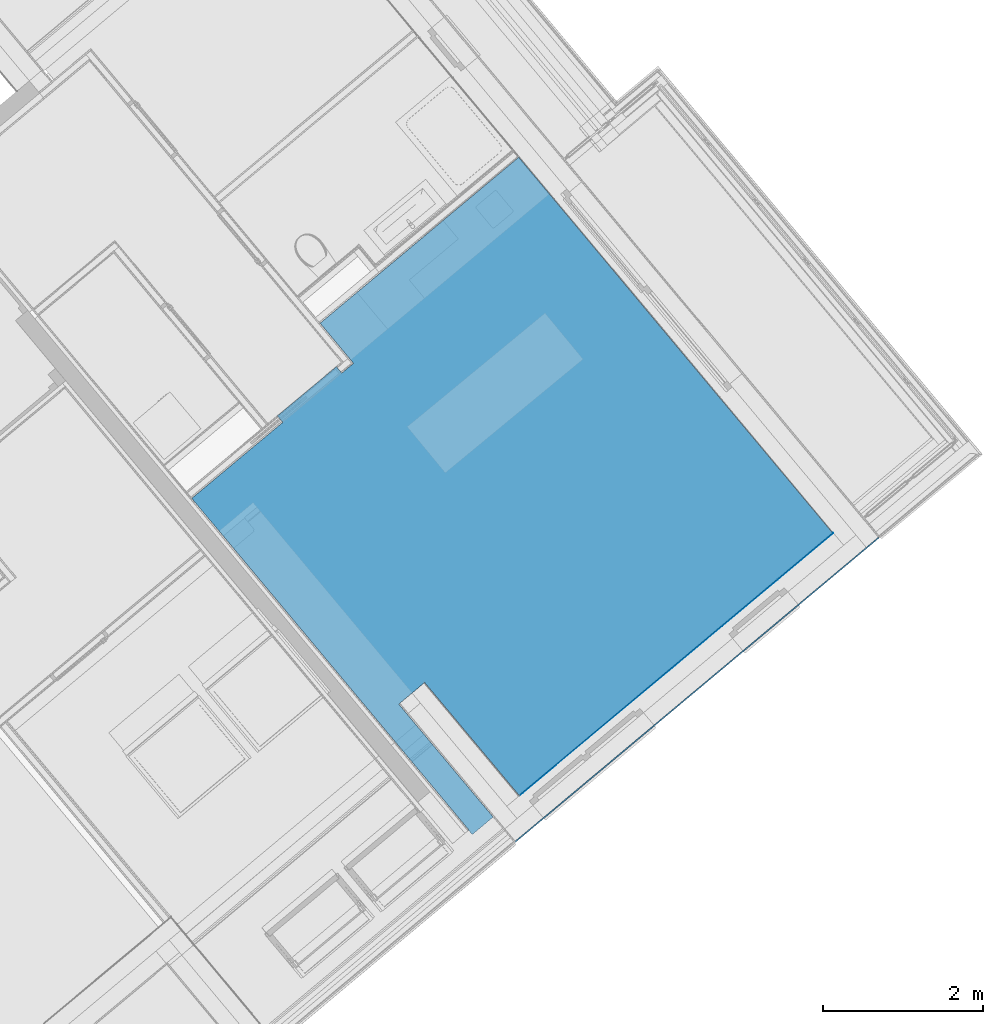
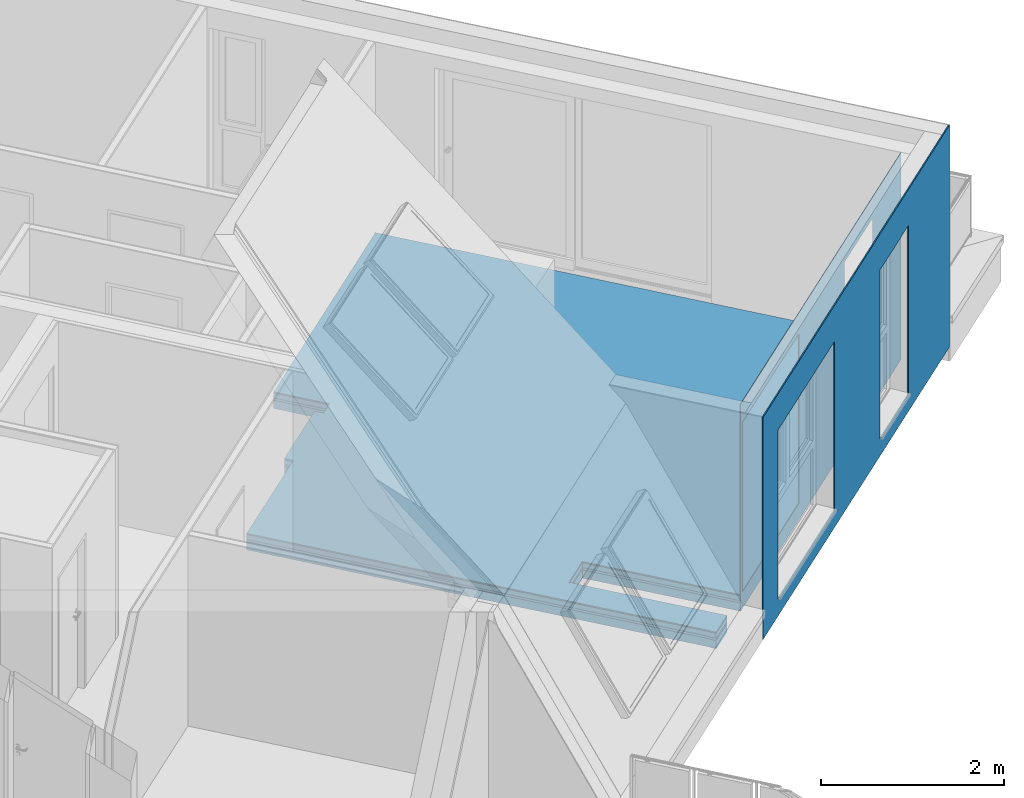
# One storey, part 31 of 61: 6 building element parts, 2 openings, 2 elements without a shape of their own.
"""IFC4 building model written with IfcOpenShell, lengths in metres."""

from ifc_helpers import new_model, entity, si_unit, converted_unit, derived_unit, direction, frame, origin_with_axes, place, context, subcontext, project, spatial, polygons, material, type_object, element, aggregate, save


model = new_model("IFC4")

# Units and contexts
model_context = context("Model", 3, precision=1e-05, world=origin_with_axes(), true_north=direction((0.0, 1.0)))
body_context = subcontext(model_context, "Body", "Model", "MODEL_VIEW")
ifc_project = project(units=[si_unit("LENGTHUNIT", "METRE"), si_unit("AREAUNIT", "SQUARE_METRE"), si_unit("VOLUMEUNIT", "CUBIC_METRE"), converted_unit("PLANEANGLEUNIT", "DEGREE", entity("IfcPlaneAngleMeasure", 0.0174532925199), si_unit("PLANEANGLEUNIT", "RADIAN"), dimensions=[0, 0, 0, 0, 0, 0, 0]), converted_unit("TIMEUNIT", "Year", entity("IfcTimeMeasure", 31556926.0), si_unit("TIMEUNIT", "SECOND"), dimensions=[0, 0, 1, 0, 0, 0, 0]), si_unit("MASSUNIT", "GRAM", prefix="KILO"), si_unit("THERMODYNAMICTEMPERATUREUNIT", "DEGREE_CELSIUS"), si_unit("LUMINOUSINTENSITYUNIT", "LUMEN"), si_unit("ENERGYUNIT", "JOULE", prefix="MEGA"), derived_unit("THERMALCONDUCTANCEUNIT", [(si_unit("POWERUNIT", "WATT"), 1), (si_unit("LENGTHUNIT", "METRE"), -1), (si_unit("THERMODYNAMICTEMPERATUREUNIT", "KELVIN"), -1)]), derived_unit("SPECIFICHEATCAPACITYUNIT", [(si_unit("ENERGYUNIT", "JOULE"), 1), (si_unit("MASSUNIT", "GRAM", prefix="KILO"), -1), (si_unit("THERMODYNAMICTEMPERATUREUNIT", "KELVIN"), -1)]), derived_unit("MASSDENSITYUNIT", [(si_unit("MASSUNIT", "GRAM", prefix="KILO"), 1), (si_unit("VOLUMEUNIT", "CUBIC_METRE"), -1)])], contexts=[model_context])

# Site, building, storey
site_placement = place(None, frame((-0.00153261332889, -0.00661245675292, 0.0), z_axis=(0.0, 0.0, 1.0), x_axis=(1.0, 0.0, 0.0)))
site = spatial("IfcSite", under=ifc_project, at=site_placement, Name="Gelände", CompositionType="ELEMENT")
building_placement = place(site_placement, origin_with_axes())
building = spatial("IfcBuilding", under=site, at=building_placement, Name="Gebäude", CompositionType="ELEMENT")
storey_placement = place(building_placement, frame((0.0, 0.0, 5.7), z_axis=(0.0, 0.0, 1.0), x_axis=(1.0, 0.0, 0.0)))
storey = spatial("IfcBuildingStorey", under=building, at=storey_placement, Name="DG1", CompositionType="ELEMENT", Elevation=5.7)

# Wall, openings, building element parts
wall_type = type_object("IfcWallType", Name="AW EG 420", PredefinedType="NOTDEFINED")
wall_placement = place(storey_placement, frame((13.3977586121, 20.2788070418, 0.0), z_axis=(0.0, 0.0, 1.0), x_axis=(-0.766948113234, -0.641709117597, 0.0)))
wall = element("IfcWall", 1, at=wall_placement, inside=storey, type_object=wall_type, Name="Wand-002", PredefinedType="NOTDEFINED")
opening_1_placement = place(wall_placement, frame((1.77299925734, 0.0, 0.22), z_axis=(0.0, 0.0, 1.0), x_axis=(1.0, 0.0, 0.0)))
element("IfcOpeningElement", 2, at=opening_1_placement, cuts=wall, Name="Fenster-001", context=body_context, identifier="Reference", shape_type="Tessellation", body=[
    polygons([(-0.45, -0.215, 0.0), (-0.45, -0.215, 2.26), (-0.45, 2.71896276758, 2.26), (-0.45, 2.71896276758, 0.0), (-0.45, -3.13896276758, 0.0), (-0.45, -3.13896276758, 2.26), (0.45, -0.215, 2.26), (0.45, 2.71896276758, 2.26), (0.45, -3.13896276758, 2.26), (0.45, 2.71896276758, 0.0), (0.45, -0.215, 0.0), (0.45, -3.13896276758, 0.0)], [[[1, 2, 3, 4]], [[2, 1, 5, 6]], [[7, 8, 3, 2, 6, 9]], [[8, 10, 4, 3]], [[1, 4, 10, 11, 12, 5]], [[6, 5, 12, 9]], [[7, 11, 10, 8]], [[11, 7, 9, 12]]], closed=True),
])
opening_2_placement = place(wall_placement, frame((4.56977629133, 0.0, 0.22), z_axis=(0.0, 0.0, 1.0), x_axis=(1.0, 0.0, 0.0)))
element("IfcOpeningElement", 3, at=opening_2_placement, cuts=wall, Name="Fenster-001", context=body_context, identifier="Reference", shape_type="Tessellation", body=[
    polygons([(-0.9, -0.215, 0.0), (-0.9, -0.215, 2.26), (-0.9, 2.71896276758, 2.26), (-0.9, 2.71896276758, 0.0), (-0.9, -3.13896276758, 0.0), (-0.9, -3.13896276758, 2.26), (0.9, -0.215, 2.26), (0.9, 2.71896276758, 2.26), (0.9, -3.13896276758, 2.26), (0.9, 2.71896276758, 0.0), (0.9, -0.215, 0.0), (0.9, -3.13896276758, 0.0)], [[[1, 2, 3, 4]], [[2, 1, 5, 6]], [[7, 8, 3, 2, 6, 9]], [[8, 10, 4, 3]], [[1, 4, 10, 11, 12, 5]], [[6, 5, 12, 9]], [[7, 11, 10, 8]], [[11, 7, 9, 12]]], closed=True),
])
ifc_material_1 = material(Name="Zementputz")
building_element_part_1_placement = place(wall_placement, origin_with_axes())
building_element_part_1 = element("IfcBuildingElementPart", 4, at=building_element_part_1_placement, material=ifc_material_1, Name="Zementputz", PredefinedType="NOTDEFINED", context=body_context, shape_type="Tessellation", body=[
    polygons([(0.0149902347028, -0.015, 2.96), (0.0149902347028, -0.015, 0.0), (5.94254559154, -0.015, 0.0), (5.94254559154, -0.015, 2.96), (1.32299925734, -0.015, 0.22), (1.32299925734, -0.015, 2.48), (2.22299925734, -0.015, 2.48), (2.22299925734, -0.015, 0.22), (5.46977629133, -0.015, 0.22), (3.66977629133, -0.015, 0.22), (3.66977629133, -0.015, 2.48), (5.46977629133, -0.015, 2.48), (0.0150000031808, 0.0, 2.96), (0.0150000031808, 0.0, 0.0), (5.94254559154, 0.0, 0.0), (5.94254559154, 0.0, 2.96), (1.32299925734, 0.0, 2.48), (1.32299925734, 0.0, 0.22), (2.22299925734, 0.0, 2.48), (2.22299925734, 0.0, 0.22), (5.46977629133, 0.0, 0.22), (3.66977629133, 0.0, 0.22), (3.66977629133, 0.0, 2.48), (5.46977629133, 0.0, 2.48)], [[[1, 2, 3, 4], [5, 6, 7, 8], [9, 10, 11, 12]], [[13, 14, 2, 1]], [[2, 14, 15, 3]], [[3, 15, 16, 4]], [[13, 1, 4, 16]], [[17, 6, 5, 18]], [[19, 7, 6, 17]], [[20, 8, 7, 19]], [[18, 5, 8, 20]], [[21, 22, 10, 9]], [[22, 23, 11, 10]], [[23, 24, 12, 11]], [[24, 21, 9, 12]], [[14, 13, 16, 15], [19, 17, 18, 20], [21, 24, 23, 22]]], closed=True),
])
building_element_part_2_placement = place(wall_placement, origin_with_axes())
building_element_part_2 = element("IfcBuildingElementPart", 5, at=building_element_part_2_placement, material=ifc_material_1, Name="Zementputz", PredefinedType="NOTDEFINED", context=body_context, shape_type="Tessellation", body=[
    polygons([(0.419726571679, -0.42, 0.0), (5.52754559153, -0.42, 0.0), (5.52754559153, -0.42, 2.76), (0.419726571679, -0.42, 2.76), (1.32299925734, -0.42, 0.22), (1.32299925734, -0.42, 2.48), (2.22299925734, -0.42, 2.48), (2.22299925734, -0.42, 0.22), (5.46977629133, -0.42, 0.22), (3.66977629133, -0.42, 0.22), (3.66977629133, -0.42, 2.48), (5.46977629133, -0.42, 2.48), (0.419729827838, -0.415, 0.0), (5.52754559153, -0.415, 0.0), (5.52754559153, -0.415, 2.76), (0.419729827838, -0.415, 2.76), (1.32299925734, -0.415, 2.48), (1.32299925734, -0.415, 0.22), (2.22299925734, -0.415, 2.48), (2.22299925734, -0.415, 0.22), (5.46977629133, -0.415, 0.22), (3.66977629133, -0.415, 0.22), (3.66977629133, -0.415, 2.48), (5.46977629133, -0.415, 2.48)], [[[1, 2, 3, 4], [5, 6, 7, 8], [9, 10, 11, 12]], [[1, 13, 14, 2]], [[2, 14, 15, 3]], [[4, 3, 15, 16]], [[13, 1, 4, 16]], [[17, 6, 5, 18]], [[19, 7, 6, 17]], [[20, 8, 7, 19]], [[18, 5, 8, 20]], [[21, 22, 10, 9]], [[22, 23, 11, 10]], [[23, 24, 12, 11]], [[24, 21, 9, 12]], [[14, 13, 16, 15], [19, 17, 18, 20], [21, 24, 23, 22]]], closed=True),
])
aggregate(wall, [building_element_part_1, building_element_part_2])

# Covering, building element parts
covering_type = type_object("IfcCoveringType", Name="DE 01 Decke Wohnung/Wohnung Parkett 220", PredefinedType="NOTDEFINED")
covering_placement = place(storey_placement, frame((4.8062497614, 20.7617750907, 0.22), z_axis=(0.0, 0.0, 1.0), x_axis=(1.0, 0.0, 0.0)))
covering = element("IfcCovering", 6, at=covering_placement, inside=storey, type_object=covering_type, Name="Decke-005", PredefinedType="NOTDEFINED")
ifc_material_2 = material(Name="Parkett")
building_element_part_3_placement = place(covering_placement, origin_with_axes())
building_element_part_3 = element("IfcBuildingElementPart", 7, at=building_element_part_3_placement, material=ifc_material_2, Name="Parkett", PredefinedType="NOTDEFINED", context=body_context, shape_type="Tessellation", body=[
    polygons([(3.45977327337, -4.13642165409, 0.0), (3.45581548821, -4.13972888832, 0.0), (3.5013638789, -4.19429140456, 0.0), (3.76436689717, -3.97423553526, 0.0), (2.58610046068, -2.5660130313, 0.0), (2.90821866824, -2.29649520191, 0.0), (4.08648509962, -3.70471769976, 0.0), (8.00008249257, -0.43019226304, 0.0), (4.08241896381, 4.25826166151, 0.0), (1.60254077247, 2.18607990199, 0.0), (2.02036092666, 1.68605464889, 0.0), (1.87463459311, 1.56444150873, 0.0), (1.80735832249, 1.64505720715, 0.0), (1.07030040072, 1.02995917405, 0.0), (1.13757667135, 0.94934347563, 0.0), (0.00192385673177, 0.00160551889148, 0.0), (3.45977327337, -4.13642165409, -0.015), (3.45581548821, -4.13972888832, -0.015), (3.5013638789, -4.19429140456, -0.015), (3.76436689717, -3.97423553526, -0.015), (2.58610046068, -2.5660130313, -0.015), (2.90821866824, -2.29649520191, -0.015), (4.08648509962, -3.70471769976, -0.015), (8.00008249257, -0.43019226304, -0.015), (4.08241896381, 4.25826166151, -0.015), (1.60254077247, 2.18607990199, -0.015), (2.02036092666, 1.68605464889, -0.015), (1.87463459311, 1.56444150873, -0.015), (1.80735832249, 1.64505720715, -0.015), (1.07030040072, 1.02995917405, -0.015), (1.13757667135, 0.94934347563, -0.015), (0.00192385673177, 0.00160551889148, -0.015)], [[[1, 2, 3, 4, 5, 6, 7, 8, 9, 10, 11, 12, 13, 14, 15, 16]], [[2, 1, 17, 18]], [[2, 18, 19, 3]], [[20, 4, 3, 19]], [[5, 4, 20, 21]], [[5, 21, 22, 6]], [[23, 7, 6, 22]], [[7, 23, 24, 8]], [[24, 25, 9, 8]], [[25, 26, 10, 9]], [[26, 27, 11, 10]], [[27, 28, 12, 11]], [[28, 29, 13, 12]], [[29, 30, 14, 13]], [[30, 31, 15, 14]], [[32, 16, 15, 31]], [[1, 16, 32, 17]], [[17, 32, 31, 30, 29, 28, 27, 26, 25, 24, 23, 22, 21, 20, 19, 18]]], closed=True),
])
ifc_material_3 = material(Name="Estrich")
building_element_part_4_placement = place(covering_placement, origin_with_axes())
building_element_part_4 = element("IfcBuildingElementPart", 8, at=building_element_part_4_placement, material=ifc_material_3, Name="Estrich", PredefinedType="NOTDEFINED", context=body_context, shape_type="Tessellation", body=[
    polygons([(3.45977327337, -4.13642165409, -0.015), (3.45581548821, -4.13972888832, -0.015), (3.5013638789, -4.19429140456, -0.015), (3.76436689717, -3.97423553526, -0.015), (2.58610046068, -2.5660130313, -0.015), (2.90821866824, -2.29649520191, -0.015), (4.08648509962, -3.70471769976, -0.015), (8.00008249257, -0.43019226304, -0.015), (4.08241896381, 4.25826166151, -0.015), (1.60254077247, 2.18607990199, -0.015), (2.02036092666, 1.68605464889, -0.015), (1.87463459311, 1.56444150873, -0.015), (1.80735832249, 1.64505720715, -0.015), (1.07030040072, 1.02995917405, -0.015), (1.13757667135, 0.94934347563, -0.015), (0.00192385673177, 0.00160551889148, -0.015), (3.45977327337, -4.13642165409, -0.08), (3.45581548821, -4.13972888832, -0.08), (3.5013638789, -4.19429140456, -0.08), (3.76436689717, -3.97423553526, -0.08), (2.58610046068, -2.5660130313, -0.08), (2.90821866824, -2.29649520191, -0.08), (4.08648509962, -3.70471769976, -0.08), (8.00008249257, -0.43019226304, -0.08), (4.08241896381, 4.25826166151, -0.08), (1.60254077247, 2.18607990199, -0.08), (2.02036092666, 1.68605464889, -0.08), (1.87463459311, 1.56444150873, -0.08), (1.80735832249, 1.64505720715, -0.08), (1.07030040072, 1.02995917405, -0.08), (1.13757667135, 0.94934347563, -0.08), (0.00192385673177, 0.00160551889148, -0.08)], [[[1, 2, 3, 4, 5, 6, 7, 8, 9, 10, 11, 12, 13, 14, 15, 16]], [[2, 1, 17, 18]], [[2, 18, 19, 3]], [[20, 4, 3, 19]], [[5, 4, 20, 21]], [[5, 21, 22, 6]], [[23, 7, 6, 22]], [[7, 23, 24, 8]], [[24, 25, 9, 8]], [[25, 26, 10, 9]], [[26, 27, 11, 10]], [[27, 28, 12, 11]], [[28, 29, 13, 12]], [[29, 30, 14, 13]], [[30, 31, 15, 14]], [[32, 16, 15, 31]], [[1, 16, 32, 17]], [[17, 32, 31, 30, 29, 28, 27, 26, 25, 24, 23, 22, 21, 20, 19, 18]]], closed=True),
])
ifc_material_4 = material(Name="Trittschalldämmung")
building_element_part_5_placement = place(covering_placement, origin_with_axes())
building_element_part_5 = element("IfcBuildingElementPart", 9, at=building_element_part_5_placement, material=ifc_material_4, Name="Trittschalldämmung", PredefinedType="NOTDEFINED", context=body_context, shape_type="Tessellation", body=[
    polygons([(3.45977327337, -4.13642165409, -0.08), (3.45581548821, -4.13972888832, -0.08), (3.5013638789, -4.19429140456, -0.08), (3.76436689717, -3.97423553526, -0.08), (2.58610046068, -2.5660130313, -0.08), (2.90821866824, -2.29649520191, -0.08), (4.08648509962, -3.70471769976, -0.08), (8.00008249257, -0.43019226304, -0.08), (4.08241896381, 4.25826166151, -0.08), (1.60254077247, 2.18607990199, -0.08), (2.02036092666, 1.68605464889, -0.08), (1.87463459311, 1.56444150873, -0.08), (1.80735832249, 1.64505720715, -0.08), (1.07030040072, 1.02995917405, -0.08), (1.13757667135, 0.94934347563, -0.08), (0.00192385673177, 0.00160551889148, -0.08), (3.45977327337, -4.13642165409, -0.11), (3.45581548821, -4.13972888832, -0.11), (3.5013638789, -4.19429140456, -0.11), (3.76436689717, -3.97423553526, -0.11), (2.58610046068, -2.5660130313, -0.11), (2.90821866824, -2.29649520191, -0.11), (4.08648509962, -3.70471769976, -0.11), (8.00008249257, -0.43019226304, -0.11), (4.08241896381, 4.25826166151, -0.11), (1.60254077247, 2.18607990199, -0.11), (2.02036092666, 1.68605464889, -0.11), (1.87463459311, 1.56444150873, -0.11), (1.80735832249, 1.64505720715, -0.11), (1.07030040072, 1.02995917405, -0.11), (1.13757667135, 0.94934347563, -0.11), (0.00192385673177, 0.00160551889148, -0.11)], [[[1, 2, 3, 4, 5, 6, 7, 8, 9, 10, 11, 12, 13, 14, 15, 16]], [[2, 1, 17, 18]], [[2, 18, 19, 3]], [[20, 4, 3, 19]], [[5, 4, 20, 21]], [[5, 21, 22, 6]], [[23, 7, 6, 22]], [[7, 23, 24, 8]], [[24, 25, 9, 8]], [[25, 26, 10, 9]], [[26, 27, 11, 10]], [[27, 28, 12, 11]], [[28, 29, 13, 12]], [[29, 30, 14, 13]], [[30, 31, 15, 14]], [[32, 16, 15, 31]], [[1, 16, 32, 17]], [[17, 32, 31, 30, 29, 28, 27, 26, 25, 24, 23, 22, 21, 20, 19, 18]]], closed=True),
])
ifc_material_5 = material(Name="Schüttung")
building_element_part_6_placement = place(covering_placement, origin_with_axes())
building_element_part_6 = element("IfcBuildingElementPart", 10, at=building_element_part_6_placement, material=ifc_material_5, Name="Schüttung", PredefinedType="NOTDEFINED", context=body_context, shape_type="Tessellation", body=[
    polygons([(3.45977327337, -4.13642165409, -0.11), (3.45581548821, -4.13972888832, -0.11), (3.5013638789, -4.19429140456, -0.11), (3.76436689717, -3.97423553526, -0.11), (2.58610046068, -2.5660130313, -0.11), (2.90821866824, -2.29649520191, -0.11), (4.08648509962, -3.70471769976, -0.11), (8.00008249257, -0.43019226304, -0.11), (4.08241896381, 4.25826166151, -0.11), (1.60254077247, 2.18607990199, -0.11), (2.02036092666, 1.68605464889, -0.11), (1.87463459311, 1.56444150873, -0.11), (1.80735832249, 1.64505720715, -0.11), (1.07030040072, 1.02995917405, -0.11), (1.13757667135, 0.94934347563, -0.11), (0.00192385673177, 0.00160551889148, -0.11), (3.45977327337, -4.13642165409, -0.22), (3.45581548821, -4.13972888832, -0.22), (3.5013638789, -4.19429140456, -0.22), (3.76436689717, -3.97423553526, -0.22), (2.58610046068, -2.5660130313, -0.22), (2.90821866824, -2.29649520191, -0.22), (4.08648509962, -3.70471769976, -0.22), (8.00008249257, -0.43019226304, -0.22), (4.08241896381, 4.25826166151, -0.22), (1.60254077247, 2.18607990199, -0.22), (2.02036092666, 1.68605464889, -0.22), (1.87463459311, 1.56444150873, -0.22), (1.80735832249, 1.64505720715, -0.22), (1.07030040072, 1.02995917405, -0.22), (1.13757667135, 0.94934347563, -0.22), (0.00192385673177, 0.00160551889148, -0.22)], [[[1, 2, 3, 4, 5, 6, 7, 8, 9, 10, 11, 12, 13, 14, 15, 16]], [[2, 1, 17, 18]], [[2, 18, 19, 3]], [[20, 4, 3, 19]], [[5, 4, 20, 21]], [[5, 21, 22, 6]], [[23, 7, 6, 22]], [[7, 23, 24, 8]], [[8, 24, 25, 9]], [[9, 25, 26, 10]], [[10, 26, 27, 11]], [[11, 27, 28, 12]], [[12, 28, 29, 13]], [[13, 29, 30, 14]], [[14, 30, 31, 15]], [[32, 16, 15, 31]], [[1, 16, 32, 17]], [[17, 32, 31, 30, 29, 28, 27, 26, 25, 24, 23, 22, 21, 20, 19, 18]]], closed=True),
])
aggregate(covering, [building_element_part_3, building_element_part_4, building_element_part_5, building_element_part_6])

save(model, "model.ifc")
